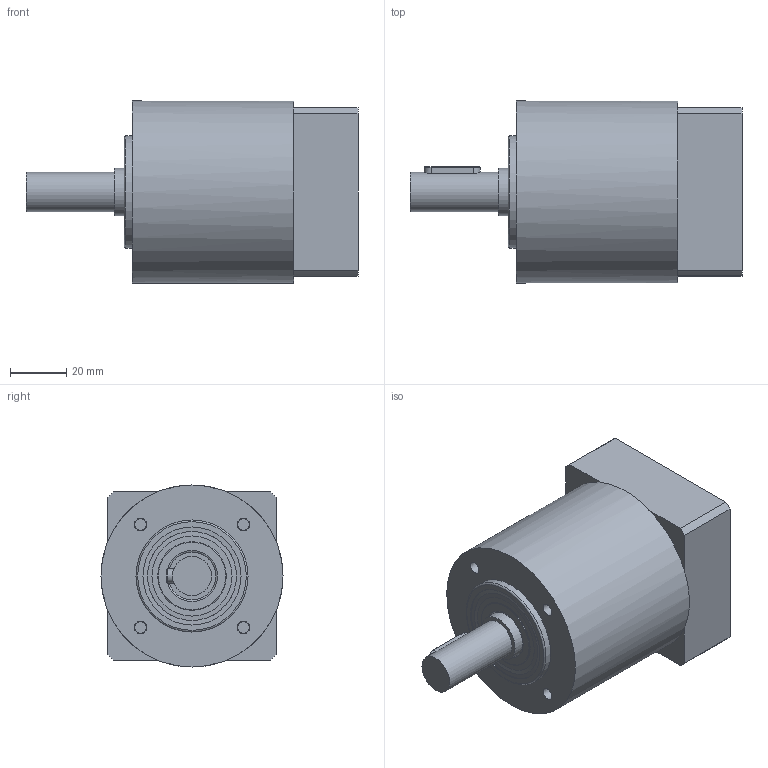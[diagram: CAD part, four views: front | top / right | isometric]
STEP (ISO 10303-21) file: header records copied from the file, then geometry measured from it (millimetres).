
FILE_DESCRIPTION( ( 'Unknown' ), '1' );
FILE_NAME( 'S:/Products/JVL/HTRGxxxxx/Drawings/3D drawing/HTRG06N___MHO50114MC_1STAGE.stp', 'Unknown', ( 'Unknown' ), ( 'Unknown' ), 'PSStep 10.1', 'Unknown', ' ' );
FILE_SCHEMA( ( 'AUTOMOTIVE_DESIGN { 1 0 10303 214 1 1 1 1 }' ) );
Length unit declared in the file: millimetre
Products named in the file (1): E00017964713MP040509092657_M
Bounding box: 118.55 x 65 x 65 mm (x, y, z)
Volume: 264180.1 mm3; surface area: 36321.9 mm2
Topology: 1 solids, 1 shells, 100 faces, 238 edges, 153 vertices
Faces by surface type: plane 44, cylinder 37, cone 15, torus 4
Full cylindrical faces by diameter (mm): 3.432 x5, 4.351 x4, 4.5 x1, 7.5 x1, 9.75 x1, 14 x2, 17 x2, 24.5 x2, 32.9 x1, 35 x2, 35.5 x1, 40 x1, 50 x1, 65 x1
Entity records: 3557 total; most frequent: CARTESIAN_POINT 658, DIRECTION 460, ORIENTED_EDGE 340, AXIS2_PLACEMENT_3D 194, EDGE_CURVE 170, EDGE_LOOP 166, VERTEX_POINT 132, FACE_OUTER_BOUND 129
